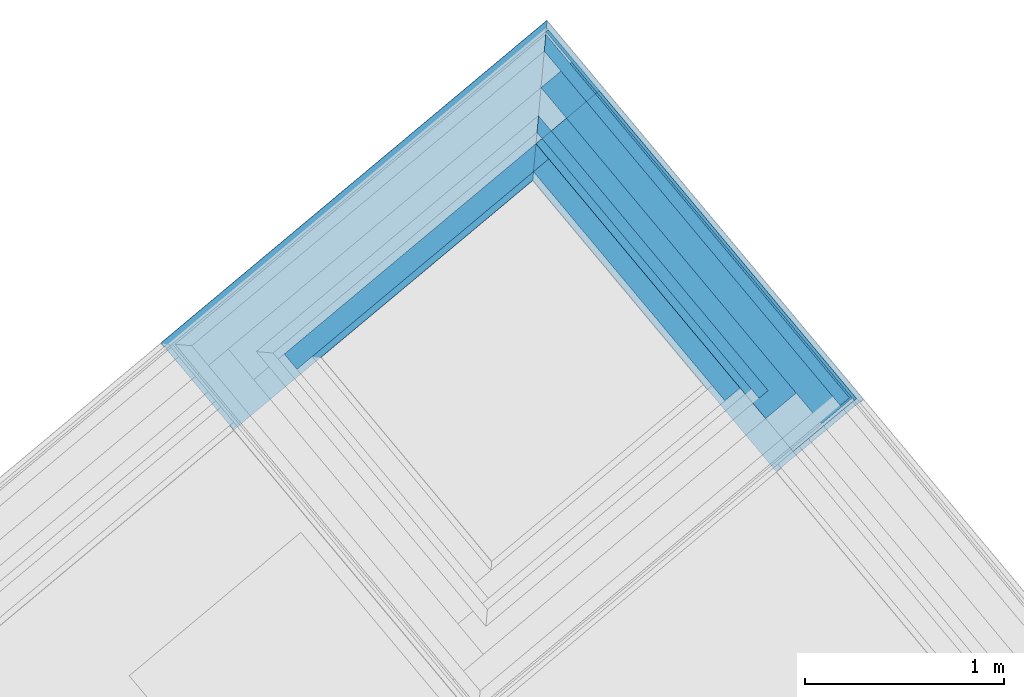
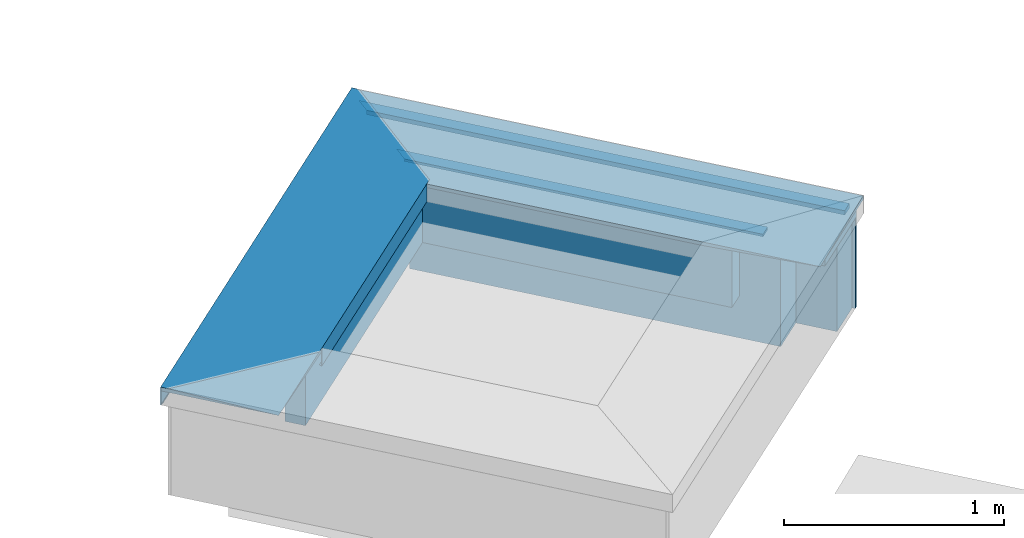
# One storey, part 12 of 15: 11 building element parts, 2 elements without a shape of their own.
"""IFC4 building model written with IfcOpenShell, lengths in metres."""

from ifc_helpers import new_model, entity, si_unit, converted_unit, derived_unit, direction, frame, origin_with_axes, place, context, subcontext, project, spatial, polygons, material, type_object, element, aggregate, save


model = new_model("IFC4")

# Units and contexts
model_context = context("Model", 3, precision=1e-05, world=origin_with_axes(), true_north=direction((0.0, 1.0)))
body_context = subcontext(model_context, "Body", "Model", "MODEL_VIEW")
ifc_project = project(units=[si_unit("LENGTHUNIT", "METRE"), si_unit("AREAUNIT", "SQUARE_METRE"), si_unit("VOLUMEUNIT", "CUBIC_METRE"), converted_unit("PLANEANGLEUNIT", "DEGREE", entity("IfcPlaneAngleMeasure", 0.0174532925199), si_unit("PLANEANGLEUNIT", "RADIAN"), dimensions=[0, 0, 0, 0, 0, 0, 0]), converted_unit("TIMEUNIT", "Year", entity("IfcTimeMeasure", 31556926.0), si_unit("TIMEUNIT", "SECOND"), dimensions=[0, 0, 1, 0, 0, 0, 0]), si_unit("MASSUNIT", "GRAM", prefix="KILO"), si_unit("THERMODYNAMICTEMPERATUREUNIT", "DEGREE_CELSIUS"), si_unit("LUMINOUSINTENSITYUNIT", "LUMEN"), si_unit("ENERGYUNIT", "JOULE", prefix="MEGA"), derived_unit("THERMALCONDUCTANCEUNIT", [(si_unit("POWERUNIT", "WATT"), 1), (si_unit("LENGTHUNIT", "METRE"), -1), (si_unit("THERMODYNAMICTEMPERATUREUNIT", "KELVIN"), -1)]), derived_unit("SPECIFICHEATCAPACITYUNIT", [(si_unit("ENERGYUNIT", "JOULE"), 1), (si_unit("MASSUNIT", "GRAM", prefix="KILO"), -1), (si_unit("THERMODYNAMICTEMPERATUREUNIT", "KELVIN"), -1)]), derived_unit("MASSDENSITYUNIT", [(si_unit("MASSUNIT", "GRAM", prefix="KILO"), 1), (si_unit("VOLUMEUNIT", "CUBIC_METRE"), -1)])], contexts=[model_context])

# Site, building, storey
site_placement = place(None, frame((-0.00153261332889, -0.00661245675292, 0.0), z_axis=(0.0, 0.0, 1.0), x_axis=(1.0, 0.0, 0.0)))
site = spatial("IfcSite", under=ifc_project, at=site_placement, Name="Site", CompositionType="ELEMENT")
building_placement = place(site_placement, origin_with_axes())
building = spatial("IfcBuilding", under=site, at=building_placement, Name="Building", CompositionType="ELEMENT")
storey_placement = place(building_placement, frame((0.0, 0.0, 11.84), z_axis=(0.0, 0.0, 1.0), x_axis=(1.0, 0.0, 0.0)))
storey = spatial("IfcBuildingStorey", under=building, at=storey_placement, Name="DA", CompositionType="ELEMENT", Elevation=11.84)

# Wall, building element parts
wall_type = type_object("IfcWallType", Name="Bauteil - Attika 574 x 610", PredefinedType="NOTDEFINED")
wall_1_placement = place(storey_placement, frame((1.62788776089, 27.3539711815, 0.96), z_axis=(0.0, 0.0, 1.0), x_axis=(0.641209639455, -0.767365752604, 0.0)))
wall_1 = element("IfcWall", 1, at=wall_1_placement, inside=storey, type_object=wall_type, Name="Wand-002", PredefinedType="NOTDEFINED")
ifc_material_1 = material(Name="Zementputz")
building_element_part_1_placement = place(wall_1_placement, origin_with_axes())
building_element_part_1 = element("IfcBuildingElementPart", 2, at=building_element_part_1_placement, material=ifc_material_1, Name="Zementputz", PredefinedType="NOTDEFINED", context=body_context, shape_type="Tessellation", body=[
    polygons([(-0.199999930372, 0.214999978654, 0.498822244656), (-0.199999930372, 0.214999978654, 0.5), (2.21614370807, 0.214999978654, 0.50000001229), (2.21614370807, 0.214999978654, 0.0), (-0.199999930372, 0.214999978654, 0.0), (-0.199999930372, 0.214999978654, 0.235000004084), (-0.199999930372, 0.214999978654, 0.488695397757), (-0.199999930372, 0.214999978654, 0.491006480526), (-0.199999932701, 0.199999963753, 0.5), (-0.199999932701, 0.199999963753, 0.498822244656), (2.21614373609, 0.199999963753, 0.50000001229), (2.21614373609, 0.199999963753, 0.0), (-0.199999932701, 0.199999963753, 0.0), (-0.199999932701, 0.199999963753, 0.235000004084), (-0.199999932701, 0.199999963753, 0.488695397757), (-0.199999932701, 0.199999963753, 0.491006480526)], [[[1, 2, 3, 4, 5, 6, 7, 8]], [[9, 2, 1, 10]], [[2, 9, 11, 3]], [[12, 4, 3, 11]], [[13, 5, 4, 12]], [[14, 6, 5, 13]], [[15, 7, 6, 14]], [[16, 8, 7, 15]], [[10, 1, 8, 16]], [[9, 10, 16, 15, 14, 13, 12, 11]]], closed=True),
])
ifc_material_2 = material(Name="Vollholz")
building_element_part_2_placement = place(wall_1_placement, origin_with_axes())
building_element_part_2 = element("IfcBuildingElementPart", 3, at=building_element_part_2_placement, material=ifc_material_2, Name="Vollholz", PredefinedType="NOTDEFINED", context=body_context, shape_type="Tessellation", body=[
    polygons([(2.1911831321, 0.130124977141, 0.575979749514), (2.19119439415, 0.130124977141, 0.573880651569), (2.19119428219, 0.190050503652, 0.573880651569), (2.19118302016, 0.190039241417, 0.575979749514), (-0.130124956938, 0.130124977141, 0.567947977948), (-0.130124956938, 0.130124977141, 0.560000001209), (2.19126886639, 0.130124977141, 0.560000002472), (2.19122622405, 0.130124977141, 0.567947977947), (2.1911400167, 0.130124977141, 0.584015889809), (-0.130124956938, 0.130124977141, 0.584015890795), (-0.130124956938, 0.130124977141, 0.575979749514), (-0.130124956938, 0.130124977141, 0.573880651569), (2.19122611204, 0.19008233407, 0.567947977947), (-0.130124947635, 0.190039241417, 0.575979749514), (-0.130124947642, 0.189996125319, 0.584015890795), (-0.189984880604, 0.189984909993, 0.586106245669), (2.19112868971, 0.189984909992, 0.586106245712), (2.19113990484, 0.189996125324, 0.584015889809), (2.1912687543, 0.190124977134, 0.560000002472), (-0.130124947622, 0.190124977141, 0.560000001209), (-0.130124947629, 0.19008233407, 0.567947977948), (-0.130124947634, 0.190050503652, 0.573880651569)], [[[1, 2, 3, 4]], [[5, 6, 7, 8, 2, 1, 9, 10, 11, 12]], [[2, 8, 13, 3]], [[14, 15, 16, 17, 18, 4, 3, 13, 19, 20, 21, 22]], [[1, 4, 18, 9]], [[6, 5, 21, 20]], [[7, 6, 20, 19]], [[8, 7, 19, 13]], [[16, 10, 9, 17]], [[11, 10, 15, 14]], [[12, 11, 14, 22]], [[5, 12, 22, 21]], [[15, 10, 16]], [[17, 9, 18]]], closed=True),
])
ifc_material_3 = material(Name="EPS 1")
building_element_part_3_placement = place(wall_1_placement, origin_with_axes())
building_element_part_3 = element("IfcBuildingElementPart", 4, at=building_element_part_3_placement, material=ifc_material_3, Name="EPS 1", PredefinedType="NOTDEFINED", context=body_context, shape_type="Tessellation", body=[
    polygons([(2.20114410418, -2.16659046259e-09, 0.5), (2.20114373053, 0.19999996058, 0.5), (3.3218292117e-08, 0.19999996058, 0.5), (2.16658690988e-09, -2.16658690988e-09, 0.5), (2.20114373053, 0.19999996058, 0.498822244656), (2.20114410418, -2.16659046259e-09, 0.498822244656), (2.20114373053, 0.19999996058, 0.491006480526), (2.20114373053, 0.19999996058, 0.488695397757), (2.20114373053, 0.19999996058, 0.235000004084), (2.20114373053, 0.19999996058, 0.0), (3.3218292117e-08, 0.19999996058, 0.0), (3.32182885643e-08, 0.19999996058, 0.235000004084), (3.32182885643e-08, 0.19999996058, 0.488695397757), (3.32182885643e-08, 0.19999996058, 0.491006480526), (3.32182885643e-08, 0.19999996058, 0.498822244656), (2.16658690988e-09, -2.16659046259e-09, 0.498822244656), (2.16658690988e-09, -2.16659046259e-09, 0.491006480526), (2.16658690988e-09, -2.16659046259e-09, 0.488695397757), (2.16658690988e-09, -2.16659046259e-09, 0.235000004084), (2.16658690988e-09, -2.16658690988e-09, 0.0), (2.20114410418, -2.16659046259e-09, 0.0), (2.20114410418, -2.16659046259e-09, 0.235000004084), (2.20114410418, -2.16659046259e-09, 0.488695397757), (2.20114410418, -2.16659046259e-09, 0.491006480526)], [[[1, 2, 3, 4]], [[5, 2, 1, 6]], [[2, 5, 7, 8, 9, 10, 11, 12, 13, 14, 15, 3]], [[4, 3, 15, 16]], [[6, 1, 4, 16, 17, 18, 19, 20, 21, 22, 23, 24]], [[5, 6, 24, 7]], [[7, 24, 23, 8]], [[8, 23, 22, 9]], [[9, 22, 21, 10]], [[10, 21, 20, 11]], [[19, 12, 11, 20]], [[18, 13, 12, 19]], [[17, 14, 13, 18]], [[16, 15, 14, 17]]], closed=True),
])
ifc_material_4 = material(Name="Brettschichtholz")
building_element_part_4_placement = place(wall_1_placement, origin_with_axes())
building_element_part_4 = element("IfcBuildingElementPart", 5, at=building_element_part_4_placement, material=ifc_material_4, Name="Brettschichtholz", PredefinedType="NOTDEFINED", context=body_context, shape_type="Tessellation", body=[
    polygons([(2.21614375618, 0.190124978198, 0.560000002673), (2.21614370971, 0.214999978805, 0.560000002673), (0.200000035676, 0.214999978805, 0.560000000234), (0.200000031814, 0.190124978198, 0.560000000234), (2.21614370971, 0.214999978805, 0.519224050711), (2.21614386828, 0.130124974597, 0.560000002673), (2.21614429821, -0.0999999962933, 0.560000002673), (2.2161444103, -0.159999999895, 0.560000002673), (2.21614448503, -0.200000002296, 0.560000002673), (2.21614448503, -0.200000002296, 0.519224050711), (2.21614370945, 0.214999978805, 0.51136132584), (2.21614370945, 0.214999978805, 0.509050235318), (2.21614370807, 0.214999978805, 0.50000001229), (0.200000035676, 0.214999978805, 0.499999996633), (0.200000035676, 0.214999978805, 0.509050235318), (0.200000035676, 0.214999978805, 0.51136132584), (0.200000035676, 0.214999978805, 0.519224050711), (0.199999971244, -0.200000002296, 0.519224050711), (0.199999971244, -0.200000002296, 0.560000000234), (0.199999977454, -0.159999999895, 0.560000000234), (0.19999998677, -0.0999999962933, 0.560000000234), (0.200000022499, 0.130124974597, 0.560000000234), (0.199999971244, -0.200000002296, 0.51136132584), (0.199999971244, -0.200000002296, 0.509050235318), (0.199999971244, -0.200000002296, 0.499999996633), (2.2161444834, -0.200000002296, 0.50000001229), (2.21614448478, -0.200000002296, 0.509050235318), (2.21614448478, -0.200000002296, 0.51136132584)], [[[1, 2, 3, 4]], [[5, 2, 1, 6, 7, 8, 9, 10]], [[2, 5, 11, 12, 13, 14, 15, 16, 17, 3]], [[4, 3, 17, 18, 19, 20, 21, 22]], [[6, 1, 4, 22]], [[7, 6, 22, 21]], [[8, 7, 21, 20]], [[9, 8, 20, 19]], [[10, 9, 19, 18, 23, 24, 25, 26, 27, 28]], [[5, 10, 28, 11]], [[11, 28, 27, 12]], [[12, 27, 26, 13]], [[25, 14, 13, 26]], [[24, 15, 14, 25]], [[23, 16, 15, 24]], [[18, 17, 16, 23]]], closed=True),
])
ifc_material_5 = material(Name="Stahlbeton Wand Garage")
building_element_part_5_placement = place(wall_1_placement, origin_with_axes())
building_element_part_5 = element("IfcBuildingElementPart", 6, at=building_element_part_5_placement, material=ifc_material_5, Name="Stahlbeton Wand Garage", PredefinedType="NOTDEFINED", context=body_context, shape_type="Tessellation", body=[
    polygons([(2.00114451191, -0.2, 0.5), (2.00114413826, 0.0, 0.5), (0.2, 0.0, 0.5), (0.199999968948, -0.2, 0.5), (2.00114413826, 0.0, 0.498822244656), (2.00114451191, -0.200000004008, 0.498822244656), (2.00114413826, 0.0, 0.491006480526), (2.00114413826, 0.0, 0.488695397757), (2.00114413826, 0.0, 0.235000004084), (2.00114413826, 0.0, 0.0), (0.2, 0.0, 0.0), (0.200000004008, 0.0, 0.235000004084), (0.200000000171, 0.0, 0.488695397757), (0.200000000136, 0.0, 0.491006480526), (0.200000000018, 0.0, 0.498822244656), (0.199999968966, -0.200000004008, 0.498822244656), (0.199999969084, -0.200000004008, 0.491006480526), (0.199999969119, -0.200000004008, 0.488695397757), (0.199999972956, -0.200000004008, 0.235000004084), (2.00114451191, -0.200000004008, 0.235000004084), (2.00114451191, -0.200000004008, 0.488695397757), (2.00114451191, -0.200000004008, 0.491006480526), (2.00114451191, -0.2, 0.0), (0.199999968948, -0.2, 0.0)], [[[1, 2, 3, 4]], [[5, 2, 1, 6]], [[2, 5, 7, 8, 9, 10, 11, 12, 13, 14, 15, 3]], [[4, 3, 15, 16]], [[6, 1, 4, 16, 17, 18, 19, 20, 21, 22]], [[5, 6, 22, 7]], [[7, 22, 21, 8]], [[8, 21, 20, 9]], [[9, 20, 23, 10]], [[10, 23, 24, 11]], [[19, 12, 11, 24]], [[18, 13, 12, 19]], [[17, 14, 13, 18]], [[16, 15, 14, 17]], [[23, 20, 19, 24]]], closed=True),
])
building_element_part_6_placement = place(wall_1_placement, origin_with_axes())
building_element_part_6 = element("IfcBuildingElementPart", 7, at=building_element_part_6_placement, material=ifc_material_2, Name="Vollholz", PredefinedType="NOTDEFINED", context=body_context, shape_type="Tessellation", body=[
    polygons([(1.90114443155, -0.160110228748, 0.573880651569), (1.90114431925, -0.1, 0.575979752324), (0.0999999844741, -0.1, 0.575979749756), (0.160110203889, -0.160110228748, 0.573880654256), (1.90114431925, -0.1, 0.573880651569), (1.90114431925, -0.1, 0.567947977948), (1.90114431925, -0.1, 0.560000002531), (0.159999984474, -0.1, 0.560000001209), (0.160063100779, -0.1, 0.567947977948), (0.160110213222, -0.1, 0.573880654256), (1.90114443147, -0.160063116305, 0.567947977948), (0.160063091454, -0.160063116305, 0.567947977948), (0.159999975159, -0.16, 0.560000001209), (1.90114443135, -0.16, 0.560000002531)], [[[1, 2, 3, 4]], [[5, 2, 1]], [[2, 5, 6, 7, 8, 9, 10, 3]], [[3, 10, 4]], [[11, 1, 4, 12, 13, 14]], [[5, 1, 11, 6]], [[6, 11, 14, 7]], [[7, 14, 13, 8]], [[12, 9, 8, 13]], [[4, 10, 9, 12]]], closed=True),
])
building_element_part_7_placement = place(wall_1_placement, origin_with_axes())
building_element_part_7 = element("IfcBuildingElementPart", 8, at=building_element_part_7_placement, material=ifc_material_3, Name="EPS 1", PredefinedType="NOTDEFINED", context=body_context, shape_type="Tessellation", body=[
    polygons([(1.80114469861, -0.30000000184, 0.560000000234), (1.80114451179, -0.200000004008, 0.560000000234), (0.299999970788, -0.200000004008, 0.560000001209), (0.299999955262, -0.30000000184, 0.560000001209), (1.80114451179, -0.200000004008, 0.519224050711), (1.80114469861, -0.30000000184, 0.519224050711), (1.80114451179, -0.200000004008, 0.51136132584), (1.80114451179, -0.200000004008, 0.509050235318), (1.80114451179, -0.200000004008, 0.499999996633), (1.80114451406, -0.200000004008, 0.498822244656), (1.80114451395, -0.200000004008, 0.491006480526), (1.80114451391, -0.200000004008, 0.488695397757), (1.80114451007, -0.200000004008, 0.235000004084), (0.299999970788, -0.200000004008, 0.235000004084), (0.299999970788, -0.200000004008, 0.488695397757), (0.299999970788, -0.200000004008, 0.491006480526), (0.299999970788, -0.200000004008, 0.498822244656), (0.299999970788, -0.200000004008, 0.499999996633), (0.299999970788, -0.200000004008, 0.509050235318), (0.299999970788, -0.200000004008, 0.51136132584), (0.299999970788, -0.200000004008, 0.519224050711), (0.299999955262, -0.30000000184, 0.519224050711), (0.299999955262, -0.30000000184, 0.51136132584), (0.299999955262, -0.30000000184, 0.509050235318), (0.299999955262, -0.30000000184, 0.499999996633), (0.299999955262, -0.30000000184, 0.498822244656), (0.299999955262, -0.30000000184, 0.491006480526), (0.299999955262, -0.30000000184, 0.488695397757), (0.299999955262, -0.30000000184, 0.235000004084), (1.8011446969, -0.30000000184, 0.235000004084), (1.80114470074, -0.30000000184, 0.488695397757), (1.80114470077, -0.30000000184, 0.491006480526), (1.80114470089, -0.30000000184, 0.498822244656), (1.80114469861, -0.30000000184, 0.499999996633), (1.80114469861, -0.30000000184, 0.509050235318), (1.80114469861, -0.30000000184, 0.51136132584)], [[[1, 2, 3, 4]], [[5, 2, 1, 6]], [[2, 5, 7, 8, 9, 10, 11, 12, 13, 14, 15, 16, 17, 18, 19, 20, 21, 3]], [[4, 3, 21, 22]], [[6, 1, 4, 22, 23, 24, 25, 26, 27, 28, 29, 30, 31, 32, 33, 34, 35, 36]], [[5, 6, 36, 7]], [[7, 36, 35, 8]], [[8, 35, 34, 9]], [[9, 34, 33, 10]], [[10, 33, 32, 11]], [[11, 32, 31, 12]], [[12, 31, 30, 13]], [[13, 30, 29, 14]], [[28, 15, 14, 29]], [[27, 16, 15, 28]], [[26, 17, 16, 27]], [[25, 18, 17, 26]], [[24, 19, 18, 25]], [[23, 20, 19, 24]], [[22, 21, 20, 23]]], closed=True),
])
ifc_material_6 = material(Name="Holzwerkstoff")
building_element_part_8_placement = place(wall_1_placement, origin_with_axes())
building_element_part_8 = element("IfcBuildingElementPart", 9, at=building_element_part_8_placement, material=ifc_material_6, Name="Holzwerkstoff", PredefinedType="NOTDEFINED", context=body_context, shape_type="Tessellation", body=[
    polygons([(0.330698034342, -0.330698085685, 0.587938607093), (-0.239276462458, 0.239276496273, 0.608570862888), (0.330698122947, 0.2399969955, 0.587938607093), (2.24114178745, -0.33069804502, 0.587937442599), (2.24042018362, 0.239276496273, 0.608570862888), (2.24114072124, 0.239997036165, 0.587937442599), (2.24114367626, 0.239999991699, 0.587852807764), (0.330695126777, 0.239999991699, 0.587852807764), (0.330634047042, -0.330634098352, 0.586106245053), (0.330634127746, 0.189984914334, 0.586106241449), (0.330561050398, -0.330561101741, 0.584015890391), (0.330280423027, -0.330280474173, 0.575979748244), (0.330207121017, -0.330207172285, 0.573880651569), (0.329999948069, -0.329999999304, 0.567947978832), (1.67114478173, -0.329999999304, 0.567947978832), (1.84103452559, -0.330207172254, 0.57388065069), (1.90114474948, -0.330280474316, 0.575979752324), (2.13126972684, -0.330561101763, 0.584015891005), (2.19112966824, -0.330634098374, 0.586106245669), (2.24114474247, -0.330695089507, 0.587852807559), (2.19112857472, 0.189984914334, 0.586106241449), (0.330561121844, 0.130124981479, 0.584015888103), (0.330280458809, -0.100000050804, 0.575979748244), (0.330207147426, -0.160110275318, 0.573880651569), (1.84103420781, -0.160110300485, 0.57388065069), (1.90114431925, -0.100000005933, 0.575979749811), (2.13126886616, 0.130124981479, 0.584015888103)], [[[1, 2, 3]], [[2, 1, 4, 5]], [[2, 5, 6, 7, 8, 3]], [[9, 1, 3, 8, 10]], [[11, 12, 13, 14, 15, 16, 17, 18, 19, 20, 4, 1, 9]], [[4, 6, 5]], [[4, 20, 7, 6]], [[10, 8, 7, 21]], [[11, 9, 10, 22]], [[12, 11, 22, 23]], [[24, 13, 12, 23]], [[24, 14, 13]], [[14, 24, 25, 15]], [[15, 25, 16]], [[17, 16, 25, 26]], [[17, 26, 27, 18]], [[19, 18, 27, 21]], [[20, 19, 21, 7]], [[22, 10, 21, 27]], [[23, 22, 27, 26]], [[24, 23, 26, 25]]], closed=True),
])
aggregate(wall_1, [building_element_part_1, building_element_part_2, building_element_part_3, building_element_part_4, building_element_part_5, building_element_part_6, building_element_part_7, building_element_part_8])

wall_2_placement = place(storey_placement, frame((0.0551279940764, 26.0397759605, 0.96), z_axis=(0.0, 0.0, 1.0), x_axis=(0.767365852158, 0.641209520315, 0.0)))
wall_2 = element("IfcWall", 10, at=wall_2_placement, inside=storey, type_object=wall_type, Name="Wand-002", PredefinedType="NOTDEFINED")
building_element_part_9_placement = place(wall_2_placement, origin_with_axes())
building_element_part_9 = element("IfcBuildingElementPart", 11, at=building_element_part_9_placement, material=ifc_material_3, Name="EPS 1", PredefinedType="NOTDEFINED", context=body_context, shape_type="Tessellation", body=[
    polygons([(0.199987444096, -0.200000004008, 0.560000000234), (0.1999811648, -0.30000000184, 0.560000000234), (1.84955667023, -0.30000000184, 0.560000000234), (1.84955665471, -0.200000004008, 0.560000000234), (0.1999811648, -0.30000000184, 0.519224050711), (0.199987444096, -0.200000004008, 0.519224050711), (0.1999811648, -0.30000000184, 0.51136132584), (0.1999811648, -0.30000000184, 0.509050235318), (0.1999811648, -0.30000000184, 0.499999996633), (0.199981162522, -0.30000000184, 0.498822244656), (0.19998116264, -0.30000000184, 0.491006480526), (0.199981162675, -0.30000000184, 0.488695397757), (0.199981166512, -0.30000000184, 0.235000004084), (1.84955666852, -0.30000000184, 0.235000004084), (1.84955667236, -0.30000000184, 0.488695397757), (1.84955667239, -0.30000000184, 0.491006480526), (1.84955667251, -0.30000000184, 0.498822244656), (1.84955667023, -0.30000000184, 0.499999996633), (1.84955667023, -0.30000000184, 0.509050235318), (1.84955667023, -0.30000000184, 0.51136132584), (1.84955667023, -0.30000000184, 0.519224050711), (1.84955665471, -0.200000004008, 0.519224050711), (1.84955665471, -0.200000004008, 0.51136132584), (1.84955665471, -0.200000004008, 0.509050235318), (1.84955665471, -0.200000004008, 0.499999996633), (1.84955665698, -0.200000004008, 0.498822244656), (1.84955665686, -0.200000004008, 0.491006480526), (1.84955665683, -0.200000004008, 0.488695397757), (1.84955665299, -0.200000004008, 0.235000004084), (0.199987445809, -0.200000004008, 0.235000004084), (0.199987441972, -0.200000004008, 0.488695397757), (0.199987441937, -0.200000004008, 0.491006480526), (0.199987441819, -0.200000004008, 0.498822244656), (0.199987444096, -0.200000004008, 0.499999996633), (0.199987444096, -0.200000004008, 0.509050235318), (0.199987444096, -0.200000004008, 0.51136132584)], [[[1, 2, 3, 4]], [[5, 2, 1, 6]], [[2, 5, 7, 8, 9, 10, 11, 12, 13, 14, 15, 16, 17, 18, 19, 20, 21, 3]], [[3, 21, 22, 4]], [[6, 1, 4, 22, 23, 24, 25, 26, 27, 28, 29, 30, 31, 32, 33, 34, 35, 36]], [[5, 6, 36, 7]], [[35, 8, 7, 36]], [[8, 35, 34, 9]], [[33, 10, 9, 34]], [[10, 33, 32, 11]], [[31, 12, 11, 32]], [[12, 31, 30, 13]], [[29, 14, 13, 30]], [[15, 14, 29, 28]], [[28, 27, 16, 15]], [[17, 16, 27, 26]], [[18, 17, 26, 25]], [[19, 18, 25, 24]], [[20, 19, 24, 23]], [[21, 20, 23, 22]]], closed=True),
])
building_element_part_10_placement = place(wall_2_placement, origin_with_axes())
building_element_part_10 = element("IfcBuildingElementPart", 12, at=building_element_part_10_placement, material=ifc_material_6, Name="Holzwerkstoff", PredefinedType="NOTDEFINED", context=body_context, shape_type="Tessellation", body=[
    polygons([(-0.130145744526, -0.330561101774, 0.584015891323), (-0.190005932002, -0.330634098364, 0.586106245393), (-0.189973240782, 0.189985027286, 0.586106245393), (-0.130116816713, 0.130124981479, 0.584015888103), (0.0999792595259, -0.330280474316, 0.575979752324), (0.160089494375, -0.330207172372, 0.573880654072), (0.329979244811, -0.329999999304, 0.567947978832), (1.71955671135, -0.329999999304, 0.567947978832), (1.88944644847, -0.330207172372, 0.573880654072), (1.94955667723, -0.330280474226, 0.575979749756), (2.17968166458, -0.330561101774, 0.584015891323), (2.23954158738, -0.330634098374, 0.586106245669), (2.28955667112, -0.330695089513, 0.587852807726), (2.28955367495, -0.330698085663, 0.587938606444), (-0.240017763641, -0.330698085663, 0.587938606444), (-0.240020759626, -0.330695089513, 0.587852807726), (-0.239984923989, 0.239999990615, 0.587852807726), (2.23954138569, 0.189984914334, 0.586106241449), (2.17968150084, 0.130124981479, 0.584015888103), (0.0999937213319, -0.100000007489, 0.575979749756), (0.160100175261, -0.160110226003, 0.573880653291), (1.88944642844, -0.160110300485, 0.57388065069), (1.94955664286, -0.0999999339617, 0.575979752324), (2.28955658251, 0.239999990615, 0.587852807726), (2.28955358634, 0.239996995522, 0.587938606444), (-0.239261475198, 0.239276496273, 0.608570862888), (2.28883308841, 0.239276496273, 0.608570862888), (-0.239981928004, 0.239996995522, 0.587938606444)], [[[1, 2, 3, 4]], [[1, 5, 6, 7, 8, 9, 10, 11, 12, 13, 14, 15, 16, 2]], [[2, 16, 17, 3]], [[4, 3, 18, 19]], [[5, 1, 4, 20]], [[20, 21, 6, 5]], [[7, 6, 21]], [[8, 7, 21, 22]], [[8, 22, 9]], [[9, 22, 23, 10]], [[10, 23, 19, 11]], [[19, 18, 12, 11]], [[18, 24, 13, 12]], [[24, 25, 14, 13]], [[26, 15, 14, 27]], [[16, 15, 28, 17]], [[3, 17, 24, 18]], [[20, 4, 19, 23]], [[21, 20, 23, 22]], [[17, 28, 26, 27, 25, 24]], [[25, 27, 14]], [[28, 15, 26]]], closed=True),
])
ifc_material_7 = material(Name="Stahl")
building_element_part_11_placement = place(wall_2_placement, origin_with_axes())
building_element_part_11 = element("IfcBuildingElementPart", 13, at=building_element_part_11_placement, material=ifc_material_7, Name="Stahl", PredefinedType="NOTDEFINED", context=body_context, shape_type="Tessellation", body=[
    polygons([(-0.240131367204, 0.240146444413, 0.511361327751), (-0.241485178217, 0.240146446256, 0.51136132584), (-0.241485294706, 0.238231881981, 0.511361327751), (-0.240131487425, 0.238231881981, 0.511361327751), (2.2897030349, 0.240146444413, 0.511361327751), (2.29105684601, 0.240146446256, 0.51136132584), (2.29105684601, 0.240152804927, 0.608602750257), (2.28970939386, 0.240152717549, 0.608602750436), (-0.240137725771, 0.240152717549, 0.608602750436), (-0.241485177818, 0.240152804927, 0.608602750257), (-0.241487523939, 0.202730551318, 0.608602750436), (-0.241485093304, 0.241500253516, 0.610006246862), (-0.241485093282, 0.241500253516, 0.510007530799), (-0.241485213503, 0.239585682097, 0.510007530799), (-0.240527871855, 0.240542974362, 0.509050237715), (2.29009956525, 0.240542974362, 0.509050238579), (2.2910568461, 0.239585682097, 0.510007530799), (2.29105684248, 0.238231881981, 0.511361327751), (2.2897030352, 0.238231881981, 0.511361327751), (2.28284456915, 0.231373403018, 0.518219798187), (-0.233273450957, 0.231373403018, 0.518219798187), (-0.232269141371, 0.232283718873, 0.51922405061), (2.28184031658, 0.232283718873, 0.51922405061), (2.2910568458, 0.241500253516, 0.510007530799), (2.2910568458, 0.241500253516, 0.610006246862), (2.29105684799, 0.202730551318, 0.608602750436), (2.28970939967, 0.202730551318, 0.608602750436), (-0.23926147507, 0.239276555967, 0.608570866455), (2.28883308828, 0.239276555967, 0.608570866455), (-0.24014007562, 0.202730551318, 0.608602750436), (-0.239263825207, 0.201849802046, 0.608570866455), (0.294639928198, -0.332051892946, 0.589243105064), (1.75489589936, -0.332051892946, 0.589243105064), (2.28883309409, 0.201849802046, 0.608570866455), (0.330677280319, -0.330698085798, 0.587937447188), (0.330677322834, -0.330666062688, 0.587938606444), (1.7188585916, -0.330666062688, 0.587938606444), (1.71885863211, -0.330698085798, 0.587937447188), (0.330677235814, -0.332051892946, 0.587938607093), (0.328762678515, -0.332051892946, 0.491006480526), (0.330116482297, -0.332051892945, 0.489652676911), (1.71941934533, -0.332051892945, 0.489652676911), (1.72077314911, -0.332051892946, 0.491006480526), (1.71885859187, -0.332051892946, 0.491006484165), (1.71885859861, -0.332051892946, 0.498822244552), (1.71885859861, -0.332051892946, 0.499999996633), (1.71885859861, -0.332051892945, 0.509050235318), (1.71885859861, -0.332051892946, 0.51136132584), (1.71885859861, -0.332051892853, 0.519224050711), (1.71885859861, -0.332051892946, 0.560000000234), (1.71885859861, -0.332051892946, 0.56794797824), (1.71885859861, -0.332051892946, 0.57388065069), (1.71885859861, -0.332051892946, 0.575979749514), (1.71885859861, -0.332051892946, 0.584015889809), (1.71885859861, -0.332051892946, 0.586106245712), (1.71885859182, -0.332051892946, 0.587938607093), (0.330677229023, -0.332051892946, 0.586106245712), (0.330677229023, -0.332051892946, 0.584015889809), (0.330677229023, -0.332051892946, 0.575979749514), (0.330677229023, -0.332051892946, 0.57388065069), (0.330677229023, -0.332051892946, 0.56794797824), (0.330677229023, -0.332051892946, 0.560000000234), (0.330677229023, -0.332051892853, 0.519224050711), (0.330677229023, -0.332051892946, 0.51136132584), (0.330677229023, -0.332051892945, 0.509050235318), (0.330677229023, -0.332051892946, 0.499999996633), (0.330677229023, -0.332051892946, 0.498822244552), (0.330677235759, -0.332051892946, 0.491006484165), (0.330677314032, -0.330698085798, 0.498822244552), (0.330677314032, -0.330698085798, 0.499999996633), (0.330677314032, -0.330698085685, 0.509050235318), (0.330677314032, -0.330698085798, 0.51136132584), (0.330677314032, -0.330698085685, 0.519224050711), (0.330677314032, -0.330698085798, 0.560000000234), (0.330677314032, -0.330698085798, 0.56794797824), (0.330677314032, -0.330698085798, 0.57388065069), (0.330677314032, -0.330698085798, 0.575979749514), (0.330677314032, -0.330698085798, 0.584015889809), (0.330677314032, -0.330698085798, 0.586106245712), (1.7188585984, -0.330698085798, 0.586106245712), (1.7188585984, -0.330698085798, 0.584015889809), (1.7188585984, -0.330698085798, 0.575979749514), (1.7188585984, -0.330698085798, 0.57388065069), (1.7188585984, -0.330698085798, 0.56794797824), (1.7188585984, -0.330698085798, 0.560000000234), (1.7188585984, -0.330698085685, 0.519224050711), (1.7188585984, -0.330698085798, 0.51136132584), (1.7188585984, -0.330698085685, 0.509050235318), (1.7188585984, -0.330698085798, 0.499999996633), (1.7188585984, -0.330698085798, 0.498822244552), (1.71885859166, -0.330698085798, 0.491006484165), (0.330677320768, -0.330698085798, 0.491006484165), (0.328762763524, -0.330698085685, 0.491006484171), (0.328762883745, -0.328783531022, 0.491006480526), (0.331073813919, -0.331094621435, 0.4886954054), (1.71846207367, -0.331094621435, 0.4886954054), (1.72077314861, -0.328783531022, 0.491006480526), (1.7207731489, -0.330698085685, 0.491006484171), (1.72767860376, -0.323792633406, 0.497911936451), (1.72667435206, -0.32288233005, 0.498822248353), (0.322862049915, -0.32288233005, 0.498822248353), (0.3218577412, -0.323792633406, 0.497911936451), (0.321857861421, -0.321878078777, 0.497911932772), (1.72767860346, -0.321878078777, 0.497911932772)], [[[1, 2, 3, 4]], [[2, 1, 5, 6, 7, 8, 9, 10]], [[11, 12, 13, 14, 3, 2, 10]], [[3, 14, 15, 16, 17, 18, 19, 20, 21, 4]], [[1, 4, 21, 22]], [[1, 22, 23, 5]], [[5, 19, 18, 6]], [[17, 24, 25, 26, 7, 6, 18]], [[27, 8, 7, 26]], [[28, 9, 8, 29]], [[30, 11, 10, 9]], [[11, 30, 31, 32, 33, 34, 27, 26, 25, 12]], [[13, 12, 25, 24]], [[14, 13, 15]], [[15, 13, 24, 16]], [[16, 24, 17]], [[5, 23, 20, 19]], [[22, 21, 20, 23]], [[29, 8, 27, 34]], [[28, 31, 30, 9]], [[35, 36, 28, 29, 37, 38]], [[36, 35, 39, 32, 31, 28]], [[40, 41, 42, 43, 44, 45, 46, 47, 48, 49, 50, 51, 52, 53, 54, 55, 56, 33, 32, 39, 57, 58, 59, 60, 61, 62, 63, 64, 65, 66, 67, 68]], [[38, 37, 29, 34, 33, 56]], [[69, 70, 71, 72, 73, 74, 75, 76, 77, 78, 79, 35, 38, 80, 81, 82, 83, 84, 85, 86, 87, 88, 89, 90, 91, 92]], [[35, 79, 57, 39]], [[93, 94, 95, 41, 40]], [[41, 95, 96, 42]], [[96, 97, 98, 43, 42]], [[91, 44, 43, 98]], [[44, 91, 90, 45]], [[46, 45, 90, 89]], [[46, 89, 88, 47]], [[47, 88, 87, 48]], [[48, 87, 86, 49]], [[85, 50, 49, 86]], [[50, 85, 84, 51]], [[51, 84, 83, 52]], [[52, 83, 82, 53]], [[53, 82, 81, 54]], [[54, 81, 80, 55]], [[56, 55, 80, 38]], [[78, 58, 57, 79]], [[77, 59, 58, 78]], [[76, 60, 59, 77]], [[76, 75, 61, 60]], [[75, 74, 62, 61]], [[62, 74, 73, 63]], [[72, 64, 63, 73]], [[72, 71, 65, 64]], [[71, 70, 66, 65]], [[70, 69, 67, 66]], [[67, 69, 92, 68]], [[93, 40, 68, 92]], [[93, 92, 91, 98, 99, 100, 101, 102]], [[94, 93, 102, 103]], [[94, 103, 104, 97, 96, 95]], [[97, 104, 99, 98]], [[99, 104, 100]], [[103, 101, 100, 104]], [[102, 101, 103]]], closed=True),
])
aggregate(wall_2, [building_element_part_9, building_element_part_10, building_element_part_11])

save(model, "model.ifc")
